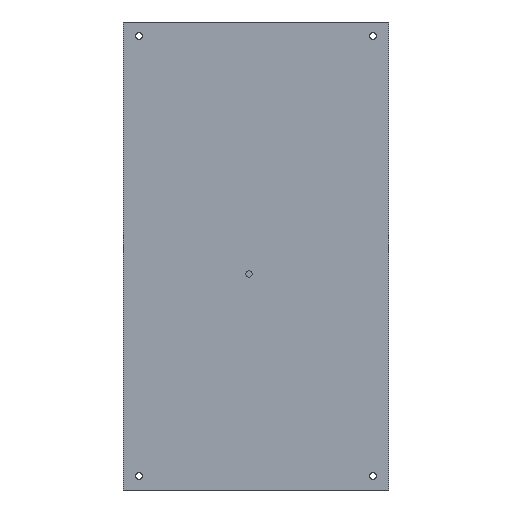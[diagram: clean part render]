
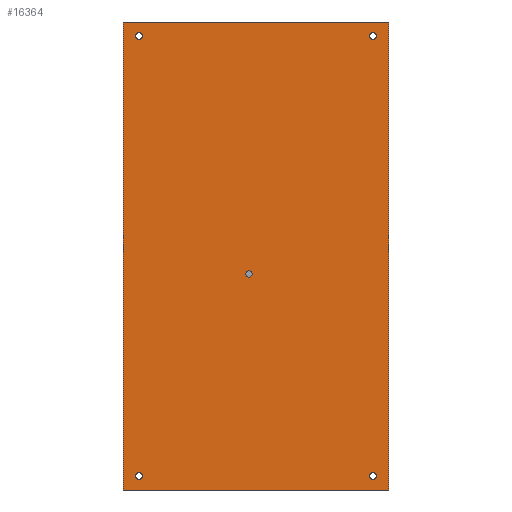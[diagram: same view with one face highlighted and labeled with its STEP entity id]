
A CAD part, front view. The second image highlights one B-rep face of the part: STEP entity #16364.
In plain terms, the highlighted planar face has unit normal (0, -1, 0).
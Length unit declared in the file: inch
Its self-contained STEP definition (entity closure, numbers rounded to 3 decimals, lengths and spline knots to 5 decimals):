
#1581=LINE('',#27709,#2899);
#1583=LINE('',#27713,#2901);
#1586=LINE('',#27718,#2904);
#1591=LINE('',#27755,#2909);
#2899=VECTOR('',#22638,0.3937);
#2901=VECTOR('',#22642,0.3937);
#2904=VECTOR('',#22647,0.3937);
#2909=VECTOR('',#22698,0.3937);
#3204=FACE_BOUND('',#5645,.T.);
#3205=FACE_BOUND('',#5646,.T.);
#3206=FACE_BOUND('',#5647,.T.);
#3207=FACE_BOUND('',#5648,.T.);
#3208=FACE_BOUND('',#5649,.T.);
#4410=FACE_OUTER_BOUND('',#5644,.T.);
#5644=EDGE_LOOP('',(#13767,#13768,#13769,#13770));
#5645=EDGE_LOOP('',(#13771));
#5646=EDGE_LOOP('',(#13772));
#5647=EDGE_LOOP('',(#13773));
#5648=EDGE_LOOP('',(#13774));
#5649=EDGE_LOOP('',(#13775));
#6291=CIRCLE('',#18043,0.07874);
#6292=CIRCLE('',#18045,0.08465);
#6294=CIRCLE('',#18048,0.08465);
#6296=CIRCLE('',#18051,0.08465);
#6298=CIRCLE('',#18054,0.08465);
#7591=VERTEX_POINT('',#27706);
#7592=VERTEX_POINT('',#27708);
#7593=VERTEX_POINT('',#27712);
#7594=VERTEX_POINT('',#27717);
#7595=VERTEX_POINT('',#27727);
#7596=VERTEX_POINT('',#27730);
#7598=VERTEX_POINT('',#27735);
#7600=VERTEX_POINT('',#27740);
#7602=VERTEX_POINT('',#27745);
#9658=EDGE_CURVE('',#7592,#7591,#1581,.T.);
#9660=EDGE_CURVE('',#7593,#7592,#1583,.T.);
#9663=EDGE_CURVE('',#7594,#7593,#1586,.T.);
#9665=EDGE_CURVE('',#7595,#7595,#6291,.T.);
#9666=EDGE_CURVE('',#7596,#7596,#6292,.T.);
#9668=EDGE_CURVE('',#7598,#7598,#6294,.T.);
#9670=EDGE_CURVE('',#7600,#7600,#6296,.T.);
#9672=EDGE_CURVE('',#7602,#7602,#6298,.T.);
#9677=EDGE_CURVE('',#7591,#7594,#1591,.T.);
#13767=ORIENTED_EDGE('',*,*,#9660,.T.);
#13768=ORIENTED_EDGE('',*,*,#9658,.T.);
#13769=ORIENTED_EDGE('',*,*,#9677,.T.);
#13770=ORIENTED_EDGE('',*,*,#9663,.T.);
#13771=ORIENTED_EDGE('',*,*,#9665,.T.);
#13772=ORIENTED_EDGE('',*,*,#9666,.T.);
#13773=ORIENTED_EDGE('',*,*,#9668,.T.);
#13774=ORIENTED_EDGE('',*,*,#9670,.T.);
#13775=ORIENTED_EDGE('',*,*,#9672,.T.);
#14456=PLANE('',#18059);
#16364=ADVANCED_FACE('',(#4410,#3204,#3205,#3206,#3207,#3208),#14456,.T.);
#18043=AXIS2_PLACEMENT_3D('',#27728,#22663,#22664);
#18045=AXIS2_PLACEMENT_3D('',#27731,#22667,#22668);
#18048=AXIS2_PLACEMENT_3D('',#27736,#22673,#22674);
#18051=AXIS2_PLACEMENT_3D('',#27741,#22679,#22680);
#18054=AXIS2_PLACEMENT_3D('',#27746,#22685,#22686);
#18059=AXIS2_PLACEMENT_3D('',#27756,#22699,#22700);
#22638=DIRECTION('',(0.,0.,-1.));
#22642=DIRECTION('',(-1.,0.,0.));
#22647=DIRECTION('',(0.,0.,1.));
#22663=DIRECTION('center_axis',(0.,1.,0.));
#22664=DIRECTION('ref_axis',(1.,0.,0.));
#22667=DIRECTION('center_axis',(0.,1.,0.));
#22668=DIRECTION('ref_axis',(1.,0.,0.));
#22673=DIRECTION('center_axis',(0.,1.,0.));
#22674=DIRECTION('ref_axis',(1.,0.,0.));
#22679=DIRECTION('center_axis',(0.,1.,0.));
#22680=DIRECTION('ref_axis',(1.,0.,0.));
#22685=DIRECTION('center_axis',(0.,1.,0.));
#22686=DIRECTION('ref_axis',(1.,0.,0.));
#22698=DIRECTION('',(1.,0.,0.));
#22699=DIRECTION('center_axis',(0.,-1.,0.));
#22700=DIRECTION('ref_axis',(0.,0.,-1.));
#27706=CARTESIAN_POINT('',(-3.71587,-0.476,-5.9252));
#27708=CARTESIAN_POINT('',(-3.71587,-0.476,5.88583));
#27709=CARTESIAN_POINT('',(-3.71587,-0.476,5.88583));
#27712=CARTESIAN_POINT('',(2.97705,-0.476,5.88583));
#27713=CARTESIAN_POINT('',(2.97705,-0.476,5.88583));
#27717=CARTESIAN_POINT('',(2.97705,-0.476,-5.9252));
#27718=CARTESIAN_POINT('',(2.97705,-0.476,-5.9252));
#27727=CARTESIAN_POINT('',(-0.46783,-0.476,-0.47244));
#27728=CARTESIAN_POINT('Origin',(-0.54657,-0.476,
-0.47244));
#27730=CARTESIAN_POINT('',(2.4987,-0.476,-5.57087));
#27731=CARTESIAN_POINT('Origin',(2.58335,-0.476,-5.57087));
#27735=CARTESIAN_POINT('',(-3.40681,-0.476,5.5315));
#27736=CARTESIAN_POINT('Origin',(-3.32216,-0.476,5.5315));
#27740=CARTESIAN_POINT('',(-3.40681,-0.476,-5.57087));
#27741=CARTESIAN_POINT('Origin',(-3.32216,-0.476,-5.57087));
#27745=CARTESIAN_POINT('',(2.4987,-0.476,5.5315));
#27746=CARTESIAN_POINT('Origin',(2.58335,-0.476,5.5315));
#27755=CARTESIAN_POINT('',(-3.71587,-0.476,-5.9252));
#27756=CARTESIAN_POINT('Origin',(-0.36941,-0.476,
-0.01969));
